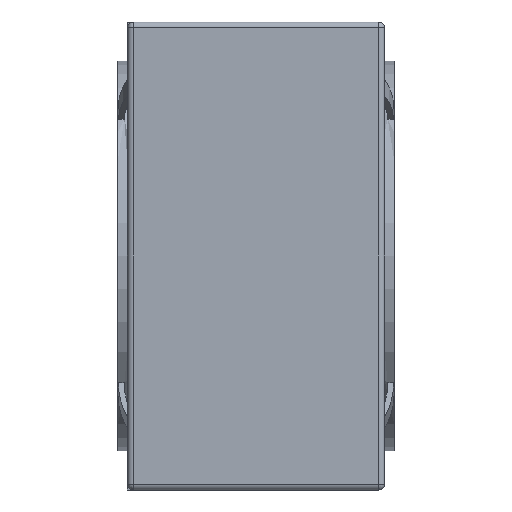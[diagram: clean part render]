
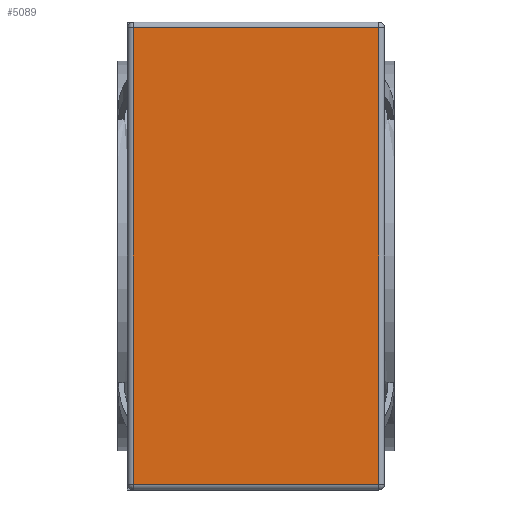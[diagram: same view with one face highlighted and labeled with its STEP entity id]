
A CAD part, left-side view. The second image highlights one B-rep face of the part: STEP entity #5089.
In plain terms, the highlighted planar face has unit normal (-1, 0, 0).
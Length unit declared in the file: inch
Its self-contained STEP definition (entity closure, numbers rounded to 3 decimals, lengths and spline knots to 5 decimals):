
#577=FACE_OUTER_BOUND('',#881,.T.);
#881=EDGE_LOOP('',(#4585,#4586,#4587,#4588));
#1481=LINE('',#9281,#1936);
#1491=LINE('',#9328,#1946);
#1497=LINE('',#9360,#1952);
#1498=LINE('',#9362,#1953);
#1936=VECTOR('',#6449,0.3937);
#1946=VECTOR('',#6513,0.3937);
#1952=VECTOR('',#6563,0.3937);
#1953=VECTOR('',#6566,0.3937);
#2430=VERTEX_POINT('',#9278);
#2431=VERTEX_POINT('',#9280);
#2440=VERTEX_POINT('',#9325);
#2441=VERTEX_POINT('',#9327);
#3133=EDGE_CURVE('',#2430,#2431,#1481,.T.);
#3157=EDGE_CURVE('',#2440,#2441,#1491,.T.);
#3174=EDGE_CURVE('',#2441,#2430,#1497,.T.);
#3175=EDGE_CURVE('',#2431,#2440,#1498,.T.);
#4585=ORIENTED_EDGE('',*,*,#3133,.F.);
#4586=ORIENTED_EDGE('',*,*,#3174,.F.);
#4587=ORIENTED_EDGE('',*,*,#3157,.F.);
#4588=ORIENTED_EDGE('',*,*,#3175,.F.);
#4807=PLANE('',#5452);
#5089=ADVANCED_FACE('',(#577),#4807,.T.);
#5452=AXIS2_PLACEMENT_3D('',#9361,#6564,#6565);
#6449=DIRECTION('',(0.,0.,-1.));
#6513=DIRECTION('',(0.,0.,1.));
#6563=DIRECTION('',(0.,-1.,0.));
#6564=DIRECTION('center_axis',(-1.,0.,0.));
#6565=DIRECTION('ref_axis',(0.,0.,1.));
#6566=DIRECTION('',(0.,1.,0.));
#9278=CARTESIAN_POINT('',(-0.32598,-0.20654,0.3837));
#9280=CARTESIAN_POINT('',(-0.32598,-0.20654,-0.3837));
#9281=CARTESIAN_POINT('',(-0.32598,-0.20654,-0.19685));
#9325=CARTESIAN_POINT('',(-0.32598,0.20654,-0.3837));
#9327=CARTESIAN_POINT('',(-0.32598,0.20654,0.3837));
#9328=CARTESIAN_POINT('',(-0.32598,0.20654,-0.19685));
#9360=CARTESIAN_POINT('',(-0.32598,0.,0.3837));
#9361=CARTESIAN_POINT('Origin',(-0.32598,0.,-0.3937));
#9362=CARTESIAN_POINT('',(-0.32598,0.,-0.3837));
